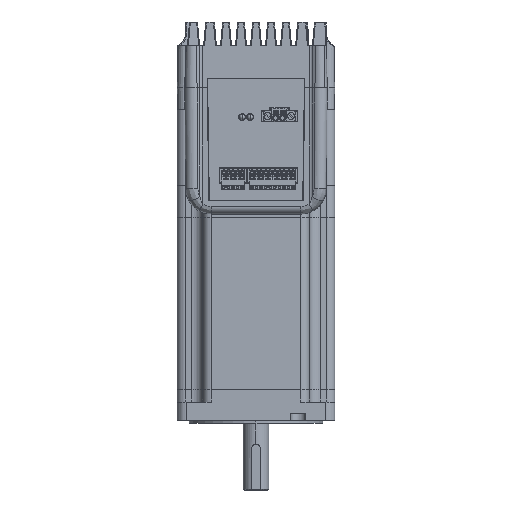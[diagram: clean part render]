
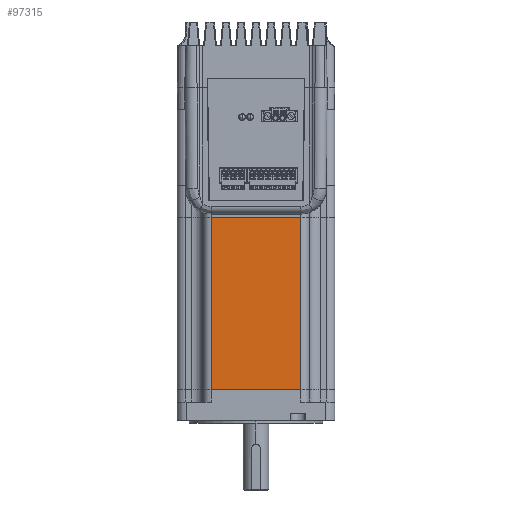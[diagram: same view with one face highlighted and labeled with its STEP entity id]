
A CAD part, left-side view. The second image highlights one B-rep face of the part: STEP entity #97315.
In plain terms, the highlighted planar face has unit normal (-1, 0, 0).
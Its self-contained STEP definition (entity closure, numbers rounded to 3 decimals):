
#6773 = AXIS2_PLACEMENT_3D ( 'NONE', #26917, #139381, #55257 ) ;
#8818 = CARTESIAN_POINT ( 'NONE',  ( -43., 24.5, 0. ) ) ;
#10896 = VERTEX_POINT ( 'NONE', #119763 ) ;
#10979 = CARTESIAN_POINT ( 'NONE',  ( -43., -24.5, 0. ) ) ;
#11982 = CARTESIAN_POINT ( 'NONE',  ( -43., 24.5, 94.15 ) ) ;
#19830 = EDGE_LOOP ( 'NONE', ( #89517, #161659, #44696, #169485 ) ) ;
#26917 = CARTESIAN_POINT ( 'NONE',  ( -43., -24.5, 80. ) ) ;
#42680 = LINE ( 'NONE', #176475, #75599 ) ;
#44696 = ORIENTED_EDGE ( 'NONE', *, *, #182564, .F. ) ;
#48689 = CARTESIAN_POINT ( 'NONE',  ( -43., 24.5, 80. ) ) ;
#50435 = DIRECTION ( 'NONE',  ( 0., 0., -1. ) ) ;
#55257 = DIRECTION ( 'NONE',  ( 0., 0., 1. ) ) ;
#62773 = DIRECTION ( 'NONE',  ( 0., 0., -1. ) ) ;
#67994 = VECTOR ( 'NONE', #62773, 1000. ) ;
#73221 = LINE ( 'NONE', #10979, #181140 ) ;
#75257 = FACE_OUTER_BOUND ( 'NONE', #19830, .T. ) ;
#75599 = VECTOR ( 'NONE', #50435, 1000. ) ;
#76390 = LINE ( 'NONE', #180918, #109390 ) ;
#79972 = VERTEX_POINT ( 'NONE', #11982 ) ;
#89517 = ORIENTED_EDGE ( 'NONE', *, *, #122785, .T. ) ;
#93079 = EDGE_CURVE ( 'NONE', #10896, #146506, #42680, .T. ) ;
#95230 = DIRECTION ( 'NONE',  ( 0., -1., 0. ) ) ;
#97315 = ADVANCED_FACE ( 'NONE', ( #75257 ), #111105, .F. ) ;
#109390 = VECTOR ( 'NONE', #110713, 1000. ) ;
#109864 = CARTESIAN_POINT ( 'NONE',  ( -43., -24.5, 0. ) ) ;
#110713 = DIRECTION ( 'NONE',  ( 0., -1., 0. ) ) ;
#111105 = PLANE ( 'NONE',  #6773 ) ;
#119763 = CARTESIAN_POINT ( 'NONE',  ( -43., -24.5, 94.15 ) ) ;
#122785 = EDGE_CURVE ( 'NONE', #168901, #146506, #73221, .T. ) ;
#126517 = EDGE_CURVE ( 'NONE', #79972, #168901, #180304, .T. ) ;
#139381 = DIRECTION ( 'NONE',  ( 1., 0., 0. ) ) ;
#146506 = VERTEX_POINT ( 'NONE', #109864 ) ;
#161659 = ORIENTED_EDGE ( 'NONE', *, *, #93079, .F. ) ;
#168901 = VERTEX_POINT ( 'NONE', #8818 ) ;
#169485 = ORIENTED_EDGE ( 'NONE', *, *, #126517, .T. ) ;
#176475 = CARTESIAN_POINT ( 'NONE',  ( -43., -24.5, 80. ) ) ;
#180304 = LINE ( 'NONE', #48689, #67994 ) ;
#180918 = CARTESIAN_POINT ( 'NONE',  ( -43., -24.5, 94.15 ) ) ;
#181140 = VECTOR ( 'NONE', #95230, 1000. ) ;
#182564 = EDGE_CURVE ( 'NONE', #79972, #10896, #76390, .T. ) ;
